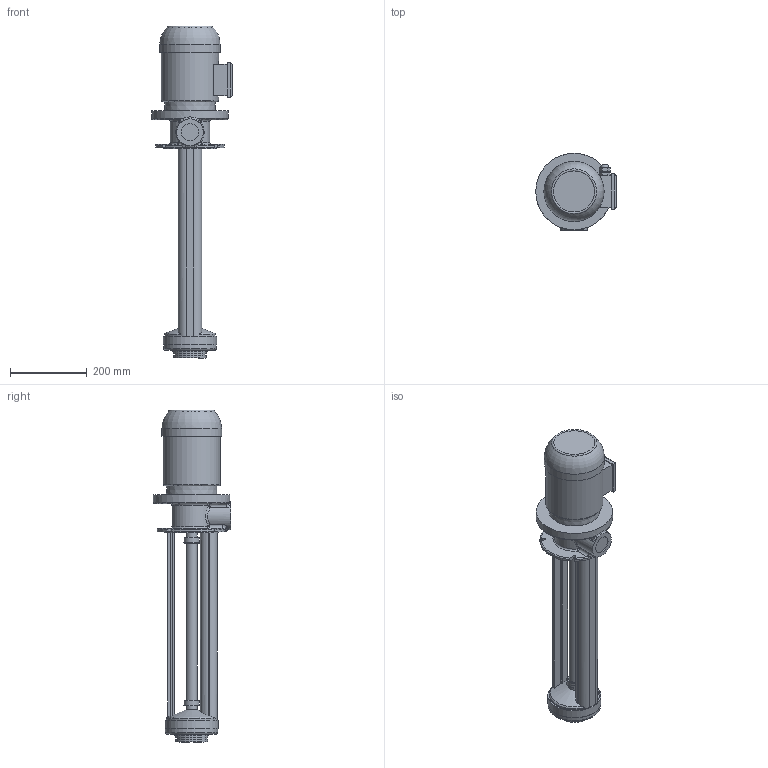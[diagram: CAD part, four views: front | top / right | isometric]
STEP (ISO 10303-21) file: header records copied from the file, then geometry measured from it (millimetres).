
FILE_DESCRIPTION(/* description */ ('Unknown'),/* implementation_level */ '2;1');
FILE_NAME(/* name */ 'GPF 550',/* time_stamp */ '2025-06-17T14:08:52+03:00',/* author */ ('Unknown'),/* organization */ ('Unknown'),/* preprocessor_version */ 'ST-DEVELOPER v16.7',/* originating_system */ 'DEX',/* authorisation */ $);
FILE_SCHEMA (('AUTOMOTIVE_DESIGN {1 0 10303 214 3 1 1}'));
Length unit declared in the file: millimetre
Products named in the file (1): GPF 550
Bounding box: 210.5 x 202 x 867.57 mm (x, y, z)
Volume: 8193618.9 mm3; surface area: 513296.5 mm2
Topology: 1 solids, 1 shells, 275 faces, 667 edges, 428 vertices
Faces by surface type: plane 97, bspline 86, cylinder 65, torus 14, cone 13
Full cylindrical faces by diameter (mm): 17 x1, 21.5 x1, 23.451 x1, 29 x3, 33 x2, 35 x2, 39 x2, 40.5 x2, 45 x1, 65.927 x1, 70 x1, 79 x1, 84 x2, 137 x1, 139 x1, 140 x1, 149.426 x1, 200 x1
Entity records: 10624 total; most frequent: CARTESIAN_POINT 4919, ORIENTED_EDGE 1224, DIRECTION 951, EDGE_CURVE 612, VERTEX_POINT 421, EDGE_LOOP 361, FACE_BOUND 361, AXIS2_PLACEMENT_3D 352
